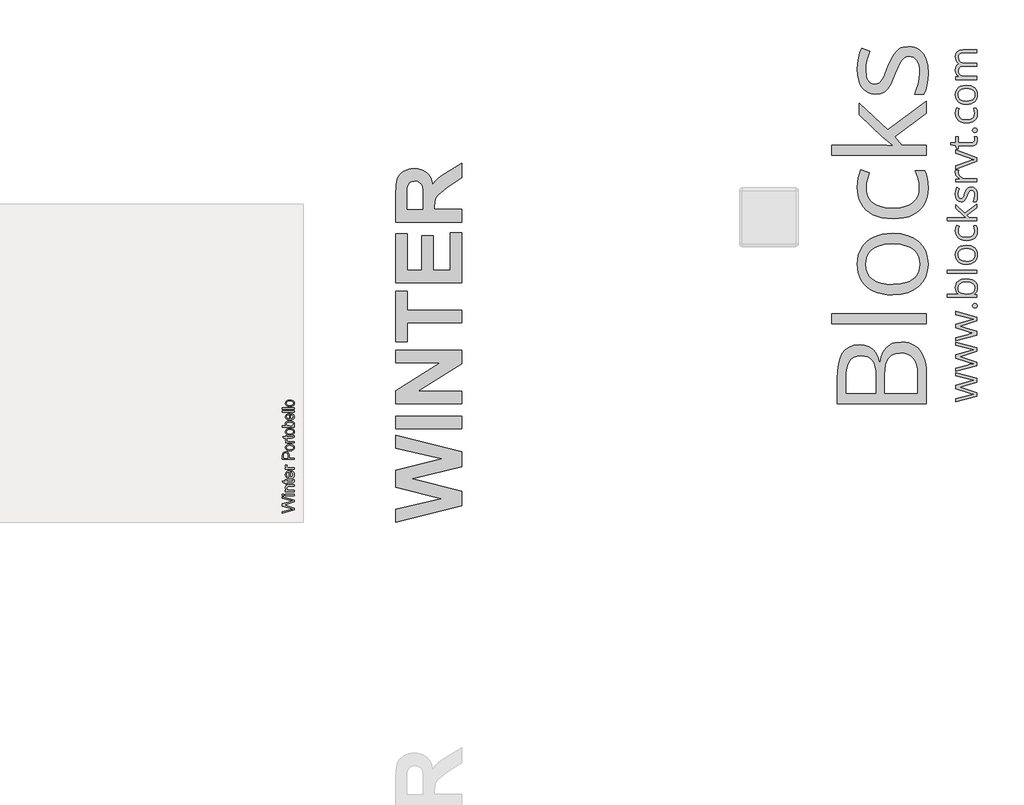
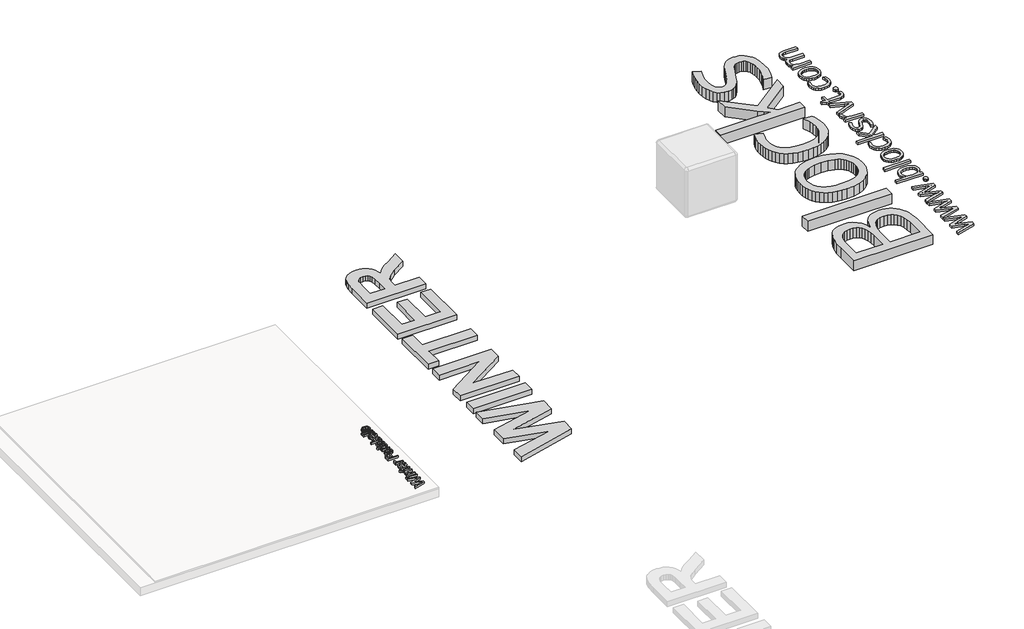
# One storey, part 7 of 7: 5 proxies.
"""IFC4 building model written with IfcOpenShell, lengths in millimetres."""

from ifc_helpers import new_model, si_unit, frame, origin, origin_with_axes, place, context, project, spatial, polyline, outline, extrude, element, save

model = new_model("IFC4")

# Units and contexts
model_context = context("Model", 3, world=origin())
ifc_project = project(units=[si_unit("LENGTHUNIT", "METRE", prefix="MILLI")], contexts=[model_context])

# Site, building, storey
site = spatial("IfcSite", under=ifc_project)
building = spatial("IfcBuilding", under=site)
storey = spatial("IfcBuildingStorey", under=building, Name="PORTOBELLO - SHOWROOM", Elevation=0.0)

# Proxies
placement = place(None, origin())
element("IfcBuildingElementProxy", 1, Name="10mm Arial", ObjectType="10mm Arial", at=placement, inside=storey, context=model_context, shape_type="SweptSolid", body=[
    extrude(outline(polyline([(-19183.5351931, 12292.86546), (-19283.9915032, 12265.4705141), (-19283.9915032, 12278.4199603), (-19217.9689478, 12294.3124625), (-19197.5882853, 12299.2175558), (-19215.6145031, 12304.4660056), (-19283.9915032, 12324.3806842), (-19283.9915032, 12343.0445641), (-19234.4255358, 12357.5145893), (-19197.5882853, 12368.281269), (-19217.3803366, 12373.0392095), (-19283.9915032, 12389.0788645), (-19283.9915032, 12402.0283107), (-19183.5351931, 12374.6088393), (-19183.5351931, 12361.1934092), (-19261.0356667, 12337.1094013), (-19271.8513974, 12333.7494124), (-19258.8283748, 12329.9724906), (-19183.5351931, 12308.0221982), (-19183.5351931, 12292.86546)])), frame((0.0, 0.0, 15.0), z_axis=(0.0, 0.0, 1.0), x_axis=(1.0, 0.0, 0.0)), (0.0, 0.0, 1.0), 20.0),
    extrude(outline(polyline([(-19183.5351931, 12413.0157196), (-19257.3077959, 12413.0157196), (-19257.3077959, 12425.5727584), (-19183.5351931, 12425.5727584), (-19183.5351931, 12413.0157196)])), frame((0.0, 0.0, 15.0), z_axis=(0.0, 0.0, 1.0), x_axis=(1.0, 0.0, 0.0)), (0.0, 0.0, 1.0), 20.0),
    extrude(outline(polyline([(-19271.4344645, 12413.0157196), (-19283.9915032, 12413.0157196), (-19283.9915032, 12425.5727584), (-19271.4344645, 12425.5727584), (-19271.4344645, 12413.0157196)])), frame((0.0, 0.0, 15.0), z_axis=(0.0, 0.0, 1.0), x_axis=(1.0, 0.0, 0.0)), (0.0, 0.0, 1.0), 20.0),
    extrude(outline(polyline([(-19183.5351931, 12444.4083165), (-19257.3077959, 12444.4083165), (-19257.3077959, 12456.9653553), (-19247.0071, 12456.9653553), (-19255.9098443, 12466.5670754), (-19258.8774257, 12479.6759371), (-19256.4861927, 12491.5340001), (-19250.2076733, 12499.627404), (-19240.9738353, 12503.3920631), (-19228.8337294, 12504.0542507), (-19183.5351931, 12504.0542507), (-19183.5351931, 12491.4972119), (-19227.1414722, 12491.4972119), (-19238.2515085, 12490.0502094), (-19244.1253577, 12484.9366497), (-19246.3203869, 12476.3159482), (-19241.3907682, 12462.6920517), (-19234.2477261, 12458.3970294), (-19222.6778374, 12456.9653553), (-19183.5351931, 12456.9653553), (-19183.5351931, 12444.4083165)])), frame((0.0, 0.0, 15.0), z_axis=(0.0, 0.0, 1.0), x_axis=(1.0, 0.0, 0.0)), (0.0, 0.0, 1.0), 20.0),
    extrude(outline(polyline([(-19194.0075672, 12548.0038864), (-19183.1673111, 12549.5735162), (-19181.9655632, 12540.1802626), (-19184.0502279, 12529.6588375), (-19189.5194069, 12524.4103877), (-19203.7687028, 12522.8898088), (-19244.7507571, 12522.8898088), (-19244.7507571, 12513.4720298), (-19257.3077959, 12513.4720298), (-19257.3077959, 12522.8898088), (-19275.2359118, 12522.8898088), (-19282.6180771, 12535.4468476), (-19257.3077959, 12535.4468476), (-19257.3077959, 12548.0038864), (-19244.7507571, 12548.0038864), (-19244.7507571, 12535.4468476), (-19204.1365848, 12535.4468476), (-19197.6618617, 12536.1090352), (-19195.3687306, 12538.2550135), (-19194.522602, 12542.5347074), (-19194.0075672, 12548.0038864)])), frame((0.0, 0.0, 15.0), z_axis=(0.0, 0.0, 1.0), x_axis=(1.0, 0.0, 0.0)), (0.0, 0.0, 1.0), 20.0),
    extrude(outline(polyline([(-19205.5100109, 12612.2115573), (-19203.9403811, 12624.5233414), (-19194.6636234, 12620.0872976), (-19187.7290478, 12613.0086349), (-19183.4064344, 12603.4467687), (-19181.9655632, 12591.5611146), (-19184.4518324, 12576.8274407), (-19191.9106398, 12565.4905439), (-19203.8576076, 12558.2616627), (-19219.8083578, 12555.8520356), (-19236.2956026, 12558.2861881), (-19248.6257808, 12565.5886457), (-19256.3145145, 12576.7722584), (-19258.8774257, 12590.8498761), (-19256.3206458, 12604.489101), (-19248.6503062, 12615.3876052), (-19236.3446535, 12622.5337129), (-19219.8819342, 12624.9157488), (-19216.4974199, 12624.8421724), (-19216.4974199, 12568.4090744), (-19207.0980349, 12570.5826438), (-19200.1879847, 12575.6318242), (-19195.9389477, 12582.9189534), (-19194.522602, 12591.8063693), (-19197.1468269, 12604.1181534), (-19205.5100109, 12612.2115573)]), holes=[polyline([(-19229.0544586, 12568.4090744), (-19229.0544586, 12612.3587101), (-19240.434275, 12607.3309895), (-19244.848859, 12600.0101378), (-19246.3203869, 12590.8008251), (-19241.6237601, 12575.3375186), (-19236.1331213, 12570.4722792), (-19229.0544586, 12568.4090744)])]), frame((0.0, 0.0, 15.0), z_axis=(0.0, 0.0, 1.0), x_axis=(1.0, 0.0, 0.0)), (0.0, 0.0, 1.0), 20.0),
    extrude(outline(polyline([(-19183.5351931, 12637.4727876), (-19257.3077959, 12637.4727876), (-19257.3077959, 12648.4601965), (-19246.3939633, 12648.4601965), (-19256.4494045, 12656.2592948), (-19258.8774257, 12664.107444), (-19255.002402, 12676.7135337), (-19243.745213, 12672.519679), (-19246.3203869, 12663.6905111), (-19243.8433148, 12656.5903886), (-19236.9761843, 12652.0654401), (-19222.3099554, 12650.0298264), (-19183.5351931, 12650.0298264), (-19183.5351931, 12637.4727876)])), frame((0.0, 0.0, 15.0), z_axis=(0.0, 0.0, 1.0), x_axis=(1.0, 0.0, 0.0)), (0.0, 0.0, 1.0), 20.0),
])
element("IfcBuildingElementProxy", 2, Name="10mm Arial Narrow", ObjectType="10mm Arial Narrow", at=placement, inside=storey, context=model_context, shape_type="SweptSolid", body=[
    extrude(outline(polyline([(-19183.5351931, 12722.2021928), (-19284.2537968, 12722.2021928), (-19284.2537968, 12753.4990775), (-19282.3754761, 12769.794779), (-19272.8950329, 12781.2677651), (-19255.8759241, 12785.5574435), (-19243.8000986, 12783.7711351), (-19234.1737048, 12778.4122099), (-19227.8724464, 12768.6684211), (-19225.7720269, 12753.7275219), (-19225.7720269, 12731.9491544), (-19183.5351931, 12731.9491544), (-19183.5351931, 12722.2021928)]), holes=[polyline([(-19237.1434822, 12731.9491544), (-19237.1434822, 12754.9205094), (-19241.6742964, 12770.7847048), (-19255.3428871, 12775.8104819), (-19265.5086636, 12773.3356674), (-19271.3086134, 12767.3580386), (-19272.8823416, 12754.692065), (-19272.8823416, 12731.9491544), (-19237.1434822, 12731.9491544)])]), frame((0.0, 0.0, 15.0), z_axis=(0.0, 0.0, 1.0), x_axis=(1.0, 0.0, 0.0)), (0.0, 0.0, 1.0), 20.0),
    extrude(outline(polyline([(-19220.0862993, 12793.6799116), (-19236.6770748, 12795.6343804), (-19248.6291597, 12801.4977871), (-19255.8537142, 12810.3563538), (-19258.2618991, 12821.2963029), (-19255.8537142, 12832.1093385), (-19248.6291597, 12840.9932879), (-19236.8674452, 12846.9328427), (-19220.8477807, 12848.9126943), (-19203.6858941, 12846.9677439), (-19191.5434389, 12841.1328929), (-19184.3188843, 12832.2838447), (-19181.9106995, 12821.2963029), (-19184.32523, 12810.4356748), (-19191.5688216, 12801.5612438), (-19203.5272521, 12795.6502446), (-19220.0862993, 12793.6799116)]), holes=[polyline([(-19220.111682, 12803.4268732), (-19207.5599306, 12804.7309101), (-19198.6886725, 12808.6430207), (-19193.415414, 12814.4842174), (-19191.6576611, 12821.5755128), (-19193.4312782, 12828.2955859), (-19198.7521293, 12833.9876592), (-19207.6392516, 12837.8712143), (-19220.111682, 12839.1657326), (-19232.6253593, 12837.8616958), (-19241.483926, 12833.9495852), (-19246.7571846, 12828.1083884), (-19248.5149374, 12821.0170931), (-19246.7476661, 12814.2494273), (-19241.445852, 12808.5668725), (-19232.5777667, 12804.7118731), (-19220.111682, 12803.4268732)])]), frame((0.0, 0.0, 15.0), z_axis=(0.0, 0.0, 1.0), x_axis=(1.0, 0.0, 0.0)), (0.0, 0.0, 1.0), 20.0),
    extrude(outline(polyline([(-19191.6576611, 12920.3904131), (-19181.9106995, 12922.0149067), (-19181.9106995, 12914.65392), (-19184.030156, 12906.3791557), (-19189.8301058, 12902.0640945), (-19204.475931, 12900.8964898), (-19246.8904438, 12900.8964898), (-19246.8904438, 12892.7740217), (-19250.1394311, 12892.7740217), (-19245.2659502, 12891.1495281), (-19246.8904438, 12883.5854797), (-19244.5679256, 12877.5063201), (-19238.0826425, 12873.6354564), (-19222.675336, 12871.6556048), (-19183.5351931, 12871.6556048), (-19183.5351931, 12861.9086431), (-19256.6374055, 12861.9086431), (-19256.6374055, 12871.6556048), (-19246.9412093, 12871.6556048), (-19256.0282204, 12877.8997521), (-19258.2618991, 12884.2961957), (-19256.6374055, 12892.7740217), (-19256.6374055, 12900.8964898), (-19272.8823416, 12900.8964898), (-19281.0048096, 12910.6434514), (-19256.6374055, 12910.6434514), (-19256.6374055, 12920.3904131), (-19246.8904438, 12920.3904131), (-19246.8904438, 12910.6434514), (-19202.2422523, 12910.6434514), (-19194.2466978, 12911.5064636), (-19191.6576611, 12916.1261173), (-19191.6576611, 12920.3904131)])), frame((0.0, 0.0, 15.0), z_axis=(0.0, 0.0, 1.0), x_axis=(1.0, 0.0, 0.0)), (0.0, 0.0, 1.0), 20.0),
    extrude(outline(polyline([(-19220.0862993, 12926.8883875), (-19236.6770748, 12928.8428564), (-19248.6291597, 12934.706263), (-19255.8537142, 12943.5648297), (-19258.2618991, 12954.5047789), (-19255.8537142, 12965.3178144), (-19248.6291597, 12974.2017639), (-19236.8674452, 12980.1413186), (-19220.8477807, 12982.1211702), (-19203.6858941, 12980.1762198), (-19191.5434389, 12974.3413688), (-19184.3188843, 12965.4923206), (-19181.9106995, 12954.5047789), (-19184.32523, 12943.6441507), (-19191.5688216, 12934.7697198), (-19203.5272521, 12928.8587206), (-19220.0862993, 12926.8883875)]), holes=[polyline([(-19220.111682, 12936.6353492), (-19207.5599306, 12937.939386), (-19198.6886725, 12941.8514966), (-19193.415414, 12947.6926933), (-19191.6576611, 12954.7839887), (-19193.4312782, 12961.5040619), (-19198.7521293, 12967.1961352), (-19207.6392516, 12971.0796902), (-19220.111682, 12972.3742086), (-19232.6253593, 12971.0701717), (-19241.483926, 12967.1580611), (-19246.7571846, 12961.3168644), (-19248.5149374, 12954.225569), (-19246.7476661, 12947.4579033), (-19241.445852, 12941.7753485), (-19232.5777667, 12937.920349), (-19220.111682, 12936.6353492)])]), frame((0.0, 0.0, 15.0), z_axis=(0.0, 0.0, 1.0), x_axis=(1.0, 0.0, 0.0)), (0.0, 0.0, 1.0), 20.0),
    extrude(outline(polyline([(-19183.5351931, 13004.8640807), (-19183.5351931, 12995.1171191), (-19284.2537968, 12995.1171191), (-19284.2537968, 13004.8640807), (-19248.8449127, 13004.8640807), (-19255.9266895, 13012.2631415), (-19258.2618991, 13021.4643748), (-19254.0610602, 13034.3461015), (-19241.3316298, 13043.6234829), (-19220.644719, 13047.1009146), (-19204.1903755, 13045.1686556), (-19191.9876364, 13039.3718786), (-19184.4299337, 13030.9987562), (-19181.9106995, 13021.3374612), (-19184.5251189, 13011.996623), (-19192.2922289, 13004.8640807), (-19183.5351931, 13004.8640807)]), holes=[polyline([(-19220.644719, 13004.8640807), (-19203.3971657, 13006.9454632), (-19194.6655126, 13012.8342525), (-19191.6576611, 13021.2866958), (-19193.4471424, 13027.2294234), (-19198.8155861, 13032.4677807), (-19220.2385956, 13037.3539529), (-19241.6742964, 13032.6454597), (-19246.8047772, 13027.4007567), (-19248.5149374, 13021.0836341), (-19246.7254562, 13015.1060053), (-19241.3570125, 13009.8137097), (-19220.644719, 13004.8640807)])]), frame((0.0, 0.0, 15.0), z_axis=(0.0, 0.0, 1.0), x_axis=(1.0, 0.0, 0.0)), (0.0, 0.0, 1.0), 20.0),
    extrude(outline(polyline([(-19206.2781036, 13099.08471), (-19204.65361, 13108.8316717), (-19194.7670434, 13105.1321413), (-19187.6471925, 13099.3131545), (-19183.3448227, 13091.6095012), (-19181.9106995, 13082.2559716), (-19184.32523, 13070.6624176), (-19191.5688216, 13061.5182953), (-19203.3749559, 13055.5787406), (-19219.4771142, 13053.598889), (-19236.1440379, 13055.5882591), (-19248.3245671, 13061.5563694), (-19255.7775661, 13070.5704052), (-19258.2618991, 13081.6975519), (-19255.8632328, 13092.3805011), (-19248.6672337, 13101.1280184), (-19236.9277291, 13106.9628695), (-19220.8985461, 13108.9078198), (-19217.6495589, 13108.8316717), (-19217.6495589, 13063.3458507), (-19198.206401, 13069.3488622), (-19193.2948461, 13075.2788984), (-19191.6576611, 13082.3828851), (-19195.3127718, 13092.5613529), (-19206.2781036, 13099.08471)]), holes=[polyline([(-19227.3965205, 13064.0058012), (-19227.3965205, 13099.08471), (-19241.661605, 13094.8204143), (-19246.8016043, 13088.9950818), (-19248.5149374, 13081.7737), (-19242.8038271, 13069.5646152), (-19227.3965205, 13064.0058012)])]), frame((0.0, 0.0, 15.0), z_axis=(0.0, 0.0, 1.0), x_axis=(1.0, 0.0, 0.0)), (0.0, 0.0, 1.0), 20.0),
    extrude(outline(polyline([(-19183.5351931, 13121.8276206), (-19284.2537968, 13121.8276206), (-19284.2537968, 13131.5745822), (-19183.5351931, 13131.5745822), (-19183.5351931, 13121.8276206)])), frame((0.0, 0.0, 15.0), z_axis=(0.0, 0.0, 1.0), x_axis=(1.0, 0.0, 0.0)), (0.0, 0.0, 1.0), 20.0),
    extrude(outline(polyline([(-19183.5351931, 13147.8195183), (-19284.2537968, 13147.8195183), (-19284.2537968, 13157.56648), (-19183.5351931, 13157.56648), (-19183.5351931, 13147.8195183)])), frame((0.0, 0.0, 15.0), z_axis=(0.0, 0.0, 1.0), x_axis=(1.0, 0.0, 0.0)), (0.0, 0.0, 1.0), 20.0),
    extrude(outline(polyline([(-19220.0862993, 13168.9379352), (-19236.6770748, 13170.8924041), (-19248.6291597, 13176.7558107), (-19255.8537142, 13185.6143774), (-19258.2618991, 13196.5543266), (-19255.8537142, 13207.3673622), (-19248.6291597, 13216.2513116), (-19236.8674452, 13222.1908663), (-19220.8477807, 13224.1707179), (-19203.6858941, 13222.2257676), (-19191.5434389, 13216.3909165), (-19184.3188843, 13207.5418683), (-19181.9106995, 13196.5543266), (-19184.32523, 13185.6936984), (-19191.5688216, 13176.8192675), (-19203.5272521, 13170.9082683), (-19220.0862993, 13168.9379352)]), holes=[polyline([(-19220.111682, 13178.6848969), (-19207.5599306, 13179.9889337), (-19198.6886725, 13183.9010443), (-19193.415414, 13189.7422411), (-19191.6576611, 13196.8335364), (-19193.4312782, 13203.5536096), (-19198.7521293, 13209.2456829), (-19207.6392516, 13213.1292379), (-19220.111682, 13214.4237563), (-19232.6253593, 13213.1197194), (-19241.483926, 13209.2076088), (-19246.7571846, 13203.3664121), (-19248.5149374, 13196.2751167), (-19246.7476661, 13189.507451), (-19241.445852, 13183.8248962), (-19232.5777667, 13179.9698967), (-19220.111682, 13178.6848969)])]), frame((0.0, 0.0, 15.0), z_axis=(0.0, 0.0, 1.0), x_axis=(1.0, 0.0, 0.0)), (0.0, 0.0, 1.0), 20.0),
])
element("IfcBuildingElementProxy", 3, Name="25mm OpenSans", ObjectType="25mm OpenSans", at=placement, inside=storey, context=model_context, shape_type="SweptSolid", body=[
    extrude(outline(polyline([(-13391.9371109, 13376.9769538), (-13495.2275167, 13345.4201607), (-13508.3074701, 13341.4849311), (-13520.6003776, 13338.1118773), (-13531.5815419, 13335.3384774), (-13540.4264388, 13333.3521234), (-13531.5815419, 13330.4288101), (-13520.4879425, 13327.7678453), (-13507.9326863, 13324.4322698), (-13494.7777762, 13320.3846051), (-13391.9371109, 13287.4036338), (-13391.9371109, 13257.1960622), (-13569.4347023, 13208.399216), (-13569.4347023, 13236.2081714), (-13471.4662259, 13261.6934674), (-13452.2772971, 13266.6406131), (-13434.4750683, 13270.6882778), (-13419.9709365, 13273.1618507), (-13429.6778361, 13276.6848181), (-13441.7458733, 13279.4207396), (-13454.5634781, 13282.7188367), (-13466.594037, 13286.2792825), (-13569.4347023, 13318.9604268), (-13569.4347023, 13347.8937335), (-13466.7439505, 13379.3755699), (-13450.5532918, 13384.1353237), (-13434.2876764, 13388.445337), (-13420.2707635, 13391.1437801), (-13433.8754142, 13394.8916178), (-13451.7151215, 13399.0142392), (-13471.4662259, 13403.9613849), (-13569.4347023, 13429.8214647), (-13569.4347023, 13457.1057229), (-13391.9371109, 13408.1589631), (-13391.9371109, 13376.9769538)])), origin_with_axes(), (0.0, 0.0, 1.0), 20.0),
    extrude(outline(polyline([(-13391.9371109, 13636.0274926), (-13495.2275167, 13604.4706995), (-13508.3074701, 13600.53547), (-13520.6003776, 13597.1624161), (-13531.5815419, 13594.3890162), (-13540.4264388, 13592.4026623), (-13531.5815419, 13589.4793489), (-13520.4879425, 13586.8183841), (-13507.9326863, 13583.4828086), (-13494.7777762, 13579.435144), (-13391.9371109, 13546.4541726), (-13391.9371109, 13516.2466011), (-13569.4347023, 13467.4497548), (-13569.4347023, 13495.2587102), (-13471.4662259, 13520.7440063), (-13452.2772971, 13525.691152), (-13434.4750683, 13529.7388166), (-13419.9709365, 13532.2123895), (-13429.6778361, 13535.7353569), (-13441.7458733, 13538.4712784), (-13454.5634781, 13541.7693755), (-13466.594037, 13545.3298213), (-13569.4347023, 13578.0109657), (-13569.4347023, 13606.9442724), (-13466.7439505, 13638.4261087), (-13450.5532918, 13643.1858625), (-13434.2876764, 13647.4958758), (-13420.2707635, 13650.1943189), (-13433.8754142, 13653.9421566), (-13451.7151215, 13658.064778), (-13471.4662259, 13663.0119237), (-13569.4347023, 13688.8720035), (-13569.4347023, 13716.1562617), (-13391.9371109, 13667.2095019), (-13391.9371109, 13636.0274926)])), origin_with_axes(), (0.0, 0.0, 1.0), 20.0),
    extrude(outline(polyline([(-13391.9371109, 13895.0780314), (-13495.2275167, 13863.5212383), (-13508.3074701, 13859.5860088), (-13520.6003776, 13856.2129549), (-13531.5815419, 13853.439555), (-13540.4264388, 13851.4532011), (-13531.5815419, 13848.5298877), (-13520.4879425, 13845.868923), (-13507.9326863, 13842.5333475), (-13494.7777762, 13838.4856828), (-13391.9371109, 13805.5047114), (-13391.9371109, 13775.2971399), (-13569.4347023, 13726.5002936), (-13569.4347023, 13754.309249), (-13471.4662259, 13779.7945451), (-13452.2772971, 13784.7416908), (-13434.4750683, 13788.7893555), (-13419.9709365, 13791.2629283), (-13429.6778361, 13794.7858957), (-13441.7458733, 13797.5218172), (-13454.5634781, 13800.8199143), (-13466.594037, 13804.3803601), (-13569.4347023, 13837.0615045), (-13569.4347023, 13865.9948112), (-13466.7439505, 13897.4766475), (-13450.5532918, 13902.2364013), (-13434.2876764, 13906.5464146), (-13420.2707635, 13909.2448577), (-13433.8754142, 13912.9926954), (-13451.7151215, 13917.1153168), (-13471.4662259, 13922.0624625), (-13569.4347023, 13947.9225424), (-13569.4347023, 13975.2068005), (-13391.9371109, 13926.2600407), (-13391.9371109, 13895.0780314)])), origin_with_axes(), (0.0, 0.0, 1.0), 20.0),
    extrude(outline(polyline([(-13408.4275965, 14005.8641125), (-13418.1063873, 14007.2414429), (-13424.5058201, 14011.3734339), (-13429.2655739, 14024.8281711), (-13424.5058201, 14038.7326488), (-13418.1063873, 14042.9770749), (-13408.4275965, 14044.3918836), (-13398.8331321, 14042.9770749), (-13392.2369379, 14038.7326488), (-13387.1398787, 14024.8281711), (-13392.2369379, 14011.3734339), (-13398.8331321, 14007.2414429), (-13408.4275965, 14005.8641125)])), origin_with_axes(), (0.0, 0.0, 1.0), 20.0),
    extrude(outline(polyline([(-13641.3931853, 14123.0964744), (-13581.1279558, 14123.0964744), (-13561.0020675, 14122.5342988), (-13545.823325, 14121.6722961), (-13556.8232286, 14131.9882193), (-13565.9866916, 14144.1218437), (-13572.1706238, 14159.7784355), (-13574.2319345, 14179.2390825), (-13572.7632506, 14195.0362182), (-13568.3571989, 14209.146827), (-13561.0137795, 14221.5709088), (-13550.7329924, 14232.3084637), (-13537.5570006, 14240.9659687), (-13521.5279674, 14247.1499009), (-13480.9107768, 14252.0970466), (-13452.8019944, 14249.8296048), (-13429.4904442, 14243.0272794), (-13411.1260397, 14232.1117023), (-13397.8586944, 14217.504505), (-13389.8195826, 14199.542993), (-13387.1398787, 14178.5644717), (-13389.0981238, 14159.4411301), (-13394.9728594, 14144.0468869), (-13403.6772123, 14132.0819152), (-13414.1243098, 14123.2463879), (-13414.1243098, 14121.1475988), (-13391.9371109, 14115.6757559), (-13391.9371109, 14096.2619568), (-13641.3931853, 14096.2619568), (-13641.3931853, 14123.0964744)]), holes=[polyline([(-13551.8198653, 14174.8166341), (-13549.8897289, 14157.59532), (-13544.0993197, 14144.3092356), (-13534.4298986, 14134.5835968), (-13520.8627262, 14128.0436201), (-13481.5853876, 14123.0964744), (-13449.7943547, 14125.8886135), (-13427.579047, 14134.2650306), (-13419.6266039, 14140.9877144), (-13413.9462875, 14149.9872096), (-13409.4020343, 14174.8166341), (-13414.049353, 14196.4603965), (-13427.9913091, 14211.9202269), (-13450.572031, 14221.1961251), (-13481.1356471, 14224.2880911), (-13511.9428726, 14221.2429731), (-13534.0551148, 14212.1076188), (-13547.3786777, 14196.6946364), (-13551.8198653, 14174.8166341)])]), origin_with_axes(), (0.0, 0.0, 1.0), 20.0),
    extrude(outline(polyline([(-13391.9371109, 14324.7301403), (-13391.9371109, 14297.7457092), (-13641.3931853, 14297.7457092), (-13641.3931853, 14324.7301403), (-13391.9371109, 14324.7301403)])), origin_with_axes(), (0.0, 0.0, 1.0), 20.0),
    extrude(outline(polyline([(-13480.9857336, 14536.8577517), (-13441.3336112, 14531.1985168), (-13425.2272788, 14524.2837564), (-13411.8381288, 14514.8579447), (-13401.2317482, 14503.0709952), (-13393.4737243, 14489.0728216), (-13388.7233401, 14472.9852284), (-13387.1398787, 14454.9300205), (-13388.7233401, 14437.905468), (-13393.4737243, 14422.3613113), (-13401.2317482, 14408.5692687), (-13411.8381288, 14396.8010585), (-13425.2272788, 14387.2628116), (-13441.3336112, 14380.1606593), (-13459.9791035, 14375.7475804), (-13480.9857336, 14374.2765542), (-13508.4573836, 14376.7407574), (-13531.5065852, 14384.1333672), (-13549.8709897, 14396.1077085), (-13563.2882485, 14412.3171064), (-13571.496013, 14432.4148858), (-13574.2319345, 14456.0543718), (-13571.4772738, 14478.7568984), (-13563.2132918, 14498.4424157), (-13549.7398154, 14514.6049656), (-13531.3566717, 14526.73859), (-13508.3449485, 14534.3279613), (-13480.9857336, 14536.8577517)]), holes=[polyline([(-13481.0606903, 14402.0855096), (-13460.6162359, 14403.5003183), (-13443.0576165, 14407.7447444), (-13428.778355, 14414.9312231), (-13418.1719745, 14425.1721895), (-13411.5945194, 14438.6456659), (-13409.4020343, 14455.5296746), (-13411.5945194, 14472.3293569), (-13418.1719745, 14485.8496812), (-13428.778355, 14496.1749739), (-13443.0576165, 14503.3895614), (-13460.6162359, 14507.6339876), (-13481.0606903, 14509.0487963), (-13501.2709049, 14507.6339876), (-13518.5765453, 14503.3895614), (-13532.6215669, 14496.1937131), (-13543.0499252, 14485.924638), (-13549.5149451, 14472.3855744), (-13551.6699518, 14455.3797611), (-13546.9851547, 14431.4779264), (-13532.9307635, 14414.9405927), (-13510.5936511, 14405.2992804), (-13481.0606903, 14402.0855096)])]), origin_with_axes(), (0.0, 0.0, 1.0), 20.0),
    extrude(outline(polyline([(-13387.1398787, 14656.5636865), (-13389.6509299, 14634.0672909), (-13397.1840836, 14614.4005128), (-13409.8611444, 14598.1630062), (-13427.8039172, 14585.954425), (-13451.0686195, 14578.3088362), (-13479.7114688, 14575.7603066), (-13509.488039, 14578.4493801), (-13533.3055473, 14586.5166007), (-13551.4450815, 14599.3060967), (-13564.1877295, 14616.1619965), (-13571.7208832, 14636.3441023), (-13574.2319345, 14659.1122161), (-13571.5709697, 14684.7474256), (-13564.8623403, 14705.0607057), (-13542.4502711, 14696.9653764), (-13548.2594195, 14678.3011449), (-13550.8454275, 14658.512562), (-13548.8122256, 14641.6285534), (-13542.7126198, 14627.85525), (-13532.6777845, 14617.1832823), (-13518.8388939, 14609.6032806), (-13501.2615353, 14605.0777666), (-13480.0112958, 14603.569262), (-13459.5855806, 14605.0402883), (-13442.3830057, 14609.4533671), (-13428.6378111, 14616.7991289), (-13418.5842366, 14627.0682041), (-13412.4284132, 14640.2699622), (-13410.3764721, 14656.4137729), (-13413.3747422, 14681.7491555), (-13420.420677, 14702.2873059), (-13396.5094728, 14702.2873059), (-13389.5759731, 14682.498723), (-13387.1398787, 14656.5636865)])), origin_with_axes(), (0.0, 0.0, 1.0), 20.0),
    extrude(outline(polyline([(-13641.3931853, 14770.572908), (-13512.5425266, 14770.572908), (-13497.0264787, 14770.0856891), (-13480.8358201, 14769.2986432), (-13493.3161195, 14780.3547643), (-13506.6209431, 14791.4108853), (-13569.4347023, 14850.2519365), (-13569.4347023, 14881.8087296), (-13493.6534249, 14810.5248574), (-13391.9371109, 14886.9807456), (-13391.9371109, 14854.5994282), (-13475.9636311, 14792.0854961), (-13456.250005, 14770.572908), (-13391.9371109, 14770.572908), (-13391.9371109, 14743.8883039), (-13641.3931853, 14743.8883039), (-13641.3931853, 14770.572908)])), origin_with_axes(), (0.0, 0.0, 1.0), 20.0),
    extrude(outline(polyline([(-13439.8344761, 15031.1975386), (-13423.9061661, 15029.0800103), (-13410.7512559, 15022.7274255), (-13400.4447023, 15012.4302415), (-13393.0614622, 14998.4789159), (-13388.6202745, 14981.1920147), (-13387.1398787, 14960.8881042), (-13390.063192, 14928.7316571), (-13398.3084349, 14904.9703663), (-13423.0441634, 14904.9703663), (-13413.2997855, 14930.8679245), (-13408.9522938, 14961.5627149), (-13410.8730606, 14981.3512978), (-13416.635361, 14994.8435133), (-13425.6957585, 15002.6015373), (-13437.5108168, 15005.1875453), (-13450.5907702, 15001.0649238), (-13461.6094129, 14987.2354029), (-13473.4151015, 14960.4383636), (-13486.5325333, 14931.0553164), (-13502.423365, 14911.9788227), (-13513.1983982, 14906.9473507), (-13526.7843097, 14905.2701933), (-13547.0507419, 14909.8238161), (-13561.9765053, 14923.4846844), (-13571.1680772, 14944.5287928), (-13574.2319345, 14971.2321361), (-13571.0837508, 15001.2523157), (-13562.6136377, 15027.2997874), (-13541.1010496, 15018.3049771), (-13549.0464654, 14994.8435133), (-13552.2696058, 14969.433174), (-13550.695514, 14953.0082755), (-13545.9732385, 14940.9121295), (-13538.5150416, 14933.4633021), (-13528.7331853, 14930.9803597), (-13514.7912292, 14935.5902), (-13504.4846757, 14950.3941587), (-13493.2036843, 14977.2286764), (-13480.3111228, 15005.9745912), (-13464.1579425, 15024.6388227), (-13453.3360613, 15029.5578596), (-13439.8344761, 15031.1975386)])), origin_with_axes(), (0.0, 0.0, 1.0), 20.0),
    extrude(outline(polyline([(-13574.2319345, 15155.4008785), (-13573.6697588, 15166.5694348), (-13572.1331454, 15176.9134667), (-13547.2475033, 15173.5404128), (-13549.0464654, 15163.7960349), (-13549.7210762, 15153.8267867), (-13545.3735845, 15133.6634201), (-13532.9307635, 15117.0979777), (-13513.4794861, 15105.9294215), (-13488.1815819, 15101.8817568), (-13391.9371109, 15101.8817568), (-13391.9371109, 15074.8973257), (-13569.4347023, 15074.8973257), (-13569.4347023, 15097.2344381), (-13538.4026065, 15100.1577515), (-13556.3922272, 15114.5119697), (-13569.3972239, 15132.5390688), (-13574.2319345, 15155.4008785)])), origin_with_axes(), (0.0, 0.0, 1.0), 20.0),
    extrude(outline(polyline([(-13391.9371109, 15248.1973389), (-13569.4347023, 15180.9611314), (-13569.4347023, 15209.7445246), (-13462.021675, 15248.6470794), (-13437.735687, 15256.9298007), (-13416.3730124, 15262.738949), (-13437.8481221, 15270.3470595), (-13462.021675, 15278.5548239), (-13569.4347023, 15317.5323356), (-13569.4347023, 15346.3157288), (-13391.9371109, 15278.9296077), (-13391.9371109, 15248.1973389)])), origin_with_axes(), (0.0, 0.0, 1.0), 20.0),
    extrude(outline(polyline([(-13409.1022073, 15434.3899137), (-13410.2265586, 15447.957086), (-13412.9999585, 15459.2755557), (-13392.1619811, 15459.2755557), (-13388.6015353, 15446.2330807), (-13387.1398787, 15429.9674653), (-13392.1245027, 15404.4821692), (-13398.8518713, 15394.1568765), (-13409.0647289, 15386.1177647), (-13423.2971424, 15380.9457487), (-13442.0831787, 15379.2217434), (-13548.4468114, 15379.2217434), (-13548.4468114, 15354.0362743), (-13561.4892864, 15354.0362743), (-13572.0581886, 15379.4466137), (-13612.6097921, 15390.0904726), (-13612.6097921, 15406.2061745), (-13569.4347023, 15406.2061745), (-13569.4347023, 15458.1512044), (-13548.4468114, 15458.1512044), (-13548.4468114, 15406.2061745), (-13442.6828327, 15406.2061745), (-13427.9444611, 15408.1269413), (-13417.4598853, 15413.8892417), (-13411.1916268, 15422.8559433), (-13409.1022073, 15434.3899137)])), origin_with_axes(), (0.0, 0.0, 1.0), 20.0),
    extrude(outline(polyline([(-13408.4275965, 15493.0060946), (-13418.1063873, 15494.383425), (-13424.5058201, 15498.515416), (-13429.2655739, 15511.9701532), (-13424.5058201, 15525.8746309), (-13418.1063873, 15530.119057), (-13408.4275965, 15531.5338658), (-13398.8331321, 15530.119057), (-13392.2369379, 15525.8746309), (-13387.1398787, 15511.9701532), (-13392.2369379, 15498.515416), (-13398.8331321, 15494.383425), (-13408.4275965, 15493.0060946)])), origin_with_axes(), (0.0, 0.0, 1.0), 20.0),
    extrude(outline(polyline([(-13387.1398787, 15654.3879841), (-13389.6509299, 15631.8915886), (-13397.1840836, 15612.2248105), (-13409.8611444, 15595.9873039), (-13427.8039172, 15583.7787227), (-13451.0686195, 15576.1331339), (-13479.7114688, 15573.5846043), (-13509.488039, 15576.2736778), (-13533.3055473, 15584.3408983), (-13551.4450815, 15597.1303943), (-13564.1877295, 15613.9862942), (-13571.7208832, 15634.1684), (-13574.2319345, 15656.9365137), (-13571.5709697, 15682.5717233), (-13564.8623403, 15702.8850034), (-13542.4502711, 15694.7896741), (-13548.2594195, 15676.1254425), (-13550.8454275, 15656.3368597), (-13548.8122256, 15639.4528511), (-13542.7126198, 15625.6795477), (-13532.6777845, 15615.00758), (-13518.8388939, 15607.4275783), (-13501.2615353, 15602.9020643), (-13480.0112958, 15601.3935597), (-13459.5855806, 15602.864586), (-13442.3830057, 15607.2776648), (-13428.6378111, 15614.6234266), (-13418.5842366, 15624.8925018), (-13412.4284132, 15638.0942599), (-13410.3764721, 15654.2380706), (-13413.3747422, 15679.5734532), (-13420.420677, 15700.1116035), (-13396.5094728, 15700.1116035), (-13389.5759731, 15680.3230207), (-13387.1398787, 15654.3879841)])), origin_with_axes(), (0.0, 0.0, 1.0), 20.0),
    extrude(outline(polyline([(-13480.9857336, 15894.4744644), (-13441.3336112, 15888.8152296), (-13425.2272788, 15881.9004691), (-13411.8381288, 15872.4746574), (-13401.2317482, 15860.6877079), (-13393.4737243, 15846.6895343), (-13388.7233401, 15830.6019412), (-13387.1398787, 15812.5467332), (-13388.7233401, 15795.5221807), (-13393.4737243, 15779.978024), (-13401.2317482, 15766.1859814), (-13411.8381288, 15754.4177712), (-13425.2272788, 15744.8795244), (-13441.3336112, 15737.777372), (-13459.9791035, 15733.3642932), (-13480.9857336, 15731.8932669), (-13508.4573836, 15734.3574701), (-13531.5065852, 15741.7500799), (-13549.8709897, 15753.7244212), (-13563.2882485, 15769.9338191), (-13571.496013, 15790.0315985), (-13574.2319345, 15813.6710845), (-13571.4772738, 15836.3736111), (-13563.2132918, 15856.0591284), (-13549.7398154, 15872.2216783), (-13531.3566717, 15884.3553027), (-13508.3449485, 15891.944674), (-13480.9857336, 15894.4744644)]), holes=[polyline([(-13481.0606903, 15759.7022223), (-13460.6162359, 15761.117031), (-13443.0576165, 15765.3614571), (-13428.778355, 15772.5479359), (-13418.1719745, 15782.7889023), (-13411.5945194, 15796.2623786), (-13409.4020343, 15813.1463873), (-13411.5945194, 15829.9460696), (-13418.1719745, 15843.4663939), (-13428.778355, 15853.7916867), (-13443.0576165, 15861.0062741), (-13460.6162359, 15865.2507003), (-13481.0606903, 15866.665509), (-13501.2709049, 15865.2507003), (-13518.5765453, 15861.0062741), (-13532.6215669, 15853.8104258), (-13543.0499252, 15843.5413507), (-13549.5149451, 15830.0022871), (-13551.6699518, 15812.9964738), (-13546.9851547, 15789.0946391), (-13532.9307635, 15772.5573054), (-13510.5936511, 15762.9159931), (-13481.0606903, 15759.7022223)])]), origin_with_axes(), (0.0, 0.0, 1.0), 20.0),
    extrude(outline(polyline([(-13574.2319345, 16135.5353825), (-13570.3716617, 16161.2268096), (-13558.7908433, 16179.6849101), (-13538.6836943, 16190.8159879), (-13509.2444295, 16194.5263472), (-13391.9371109, 16194.5263472), (-13391.9371109, 16168.0666133), (-13508.1200782, 16168.0666133), (-13527.1965719, 16165.742954), (-13540.8012226, 16158.771976), (-13548.9527695, 16147.228636), (-13551.6699518, 16131.1878908), (-13547.9033749, 16109.0006919), (-13536.6036444, 16093.8594277), (-13517.9768912, 16085.1457052), (-13492.2292465, 16082.241131), (-13391.9371109, 16082.241131), (-13391.9371109, 16055.5565269), (-13508.1200782, 16055.5565269), (-13532.3685878, 16051.4339055), (-13546.8352412, 16039.140998), (-13551.6699518, 16018.5278908), (-13549.8241417, 16002.6557984), (-13544.2867116, 15990.2691949), (-13535.1326181, 15981.0869927), (-13522.4368181, 15974.8281038), (-13486.8323603, 15970.0308716), (-13391.9371109, 15970.0308716), (-13391.9371109, 15943.196354), (-13569.4347023, 15943.196354), (-13569.4347023, 15964.8588556), (-13545.9732385, 15968.9065203), (-13561.4892864, 15983.7854358), (-13571.0087941, 16001.8874917), (-13574.2319345, 16023.2501663), (-13572.3580156, 16041.7925931), (-13566.7362592, 16057.0931403), (-13557.2729691, 16068.8894594), (-13543.8744495, 16076.9192015), (-13557.2729691, 16088.6686726), (-13566.7362592, 16102.2545841), (-13572.3580156, 16118.1828941), (-13574.2319345, 16135.5353825)])), origin_with_axes(), (0.0, 0.0, 1.0), 20.0),
])
element("IfcBuildingElementProxy", 4, Name="600mm Arial", ObjectType="600mm Arial", at=placement, inside=storey, context=model_context, shape_type="SweptSolid", body=[
    extrude(outline(polyline([(-17762.2704876, 12327.6517121), (-18323.4131576, 12186.3918386), (-18323.4131576, 12296.0596024), (-17937.9059166, 12386.799935), (-18323.4131576, 12484.3597097), (-18323.4131576, 12628.1246844), (-17931.5039913, 12725.2669423), (-18323.4131576, 12816.0072748), (-18323.4131576, 12925.6750387), (-17762.2704876, 12786.5027495), (-17762.2704876, 12659.9951387), (-18181.7357672, 12556.0334386), (-17762.2704876, 12449.9841543), (-17762.2704876, 12327.6517121)])), origin_with_axes(), (0.0, 0.0, 1.0), 50.0),
    extrude(outline(polyline([(-17762.2704876, 12979.1171977), (-18323.4131576, 12979.1171977), (-18323.4131576, 13086.0015158), (-17762.2704876, 13086.0015158), (-17762.2704876, 12979.1171977)])), origin_with_axes(), (0.0, 0.0, 1.0), 50.0),
    extrude(outline(polyline([(-17762.2704876, 13192.8858339), (-18323.4131576, 13192.8858339), (-18323.4131576, 13304.9195267), (-17945.6995648, 13540.2598677), (-18323.4131576, 13540.2598677), (-18323.4131576, 13647.1441858), (-17762.2704876, 13647.1441858), (-17762.2704876, 13531.6311858), (-18134.4171889, 13299.770152), (-17762.2704876, 13299.770152), (-17762.2704876, 13192.8858339)])), origin_with_axes(), (0.0, 0.0, 1.0), 50.0),
    extrude(outline(polyline([(-17762.2704876, 13878.726875), (-18225.435866, 13878.726875), (-18225.435866, 13718.4003979), (-18323.4131576, 13718.4003979), (-18323.4131576, 14145.9376702), (-18225.435866, 14145.9376702), (-18225.435866, 13985.6111931), (-17762.2704876, 13985.6111931), (-17762.2704876, 13878.726875)])), origin_with_axes(), (0.0, 0.0, 1.0), 50.0),
    extrude(outline(polyline([(-17762.2704876, 14217.1938823), (-18323.4131576, 14217.1938823), (-18323.4131576, 14635.8241282), (-18225.435866, 14635.8241282), (-18225.435866, 14324.0782004), (-18100.7374949, 14324.0782004), (-18100.7374949, 14618.0100751), (-18002.7602033, 14618.0100751), (-18002.7602033, 14324.0782004), (-17860.2477792, 14324.0782004), (-17860.2477792, 14644.7311547), (-17762.2704876, 14644.7311547), (-17762.2704876, 14217.1938823)])), origin_with_axes(), (0.0, 0.0, 1.0), 50.0),
    extrude(outline(polyline([(-17762.2704876, 14733.8014197), (-18323.4131576, 14733.8014197), (-18323.4131576, 14969.8376222), (-18319.6207127, 15046.730312), (-18308.2433781, 15099.2678511), (-18299.1797828, 15118.438834), (-18287.1587763, 15135.5918186), (-18272.1803587, 15150.726805), (-18254.2445299, 15163.8437933), (-18234.1254358, 15174.4382838), (-18212.5972224, 15182.005777), (-18189.6598894, 15186.546273), (-18165.3134371, 15188.0597716), (-18134.9651798, 15185.8721572), (-18107.3829717, 15179.3093139), (-18082.5668129, 15168.3712418), (-18060.5167033, 15153.0579409), (-18041.7632374, 15133.3868076), (-18026.8370094, 15109.3752386), (-18015.7380193, 15081.0232338), (-18008.4662672, 15048.3307933), (-17986.1291148, 15079.3314207), (-17961.704378, 15104.4172258), (-17926.3198235, 15130.3728578), (-17871.1032178, 15163.9829656), (-17762.2704876, 15232.5949042), (-17762.2704876, 15107.7573608), (-17890.448166, 15026.4807439), (-17966.505822, 14962.6702493), (-17979.7097929, 14944.9605755), (-17988.0079407, 14926.2071095), (-17992.3918678, 14901.3126663), (-17993.8531768, 14865.1800607), (-17993.8531768, 14840.6857378), (-17762.2704876, 14840.6857378), (-17762.2704876, 14733.8014197)]), holes=[polyline([(-18091.8304684, 14840.6857378), (-18091.8304684, 14928.7817969), (-18093.4483463, 14998.3157519), (-18098.3019799, 15035.7357011), (-18107.1046272, 15054.7675117), (-18120.5695461, 15069.1370505), (-18138.3314095, 15078.1658528), (-18160.0248901, 15081.1754535), (-18184.0495065, 15077.2090433), (-18202.9595413, 15065.3098126), (-18216.3026846, 15046.1736228), (-18223.6266263, 15020.4963354), (-18225.435866, 14933.652827), (-18225.435866, 14840.6857378), (-18091.8304684, 14840.6857378)])]), origin_with_axes(), (0.0, 0.0, 1.0), 50.0),
])
element("IfcBuildingElementProxy", 5, Name="80mm OpenSans", ObjectType="80mm OpenSans", at=placement, inside=storey, context=model_context, shape_type="SweptSolid", body=[
    extrude(outline(polyline([(-14575.1701341, 13191.5070616), (-14575.1701341, 13406.1544192), (-14572.5035674, 13472.7735196), (-14564.5038671, 13530.5741711), (-14551.1710332, 13579.5563736), (-14532.5050659, 13619.7201271), (-14507.4543612, 13651.00534), (-14474.9673153, 13673.3519207), (-14435.0439284, 13686.7598691), (-14387.6842003, 13691.2291852), (-14345.7402318, 13687.02277), (-14308.3632283, 13674.4035245), (-14276.3343813, 13653.7319985), (-14250.4348821, 13625.3687418), (-14231.0853722, 13589.4339378), (-14218.7064933, 13546.0477698), (-14213.4184285, 13546.0477698), (-14202.5418407, 13592.9492991), (-14185.2955384, 13634.142122), (-14160.7481012, 13668.3342683), (-14127.9681086, 13694.2337675), (-14108.2805833, 13703.7507818), (-14086.1142776, 13710.5486492), (-14034.345325, 13715.9869431), (-14001.0845993, 13713.9663616), (-13970.5279975, 13707.9046168), (-13942.6755199, 13697.8017089), (-13917.5271663, 13683.6576379), (-13895.1880971, 13665.8179306), (-13875.7634727, 13644.6281142), (-13859.2532931, 13620.0881885), (-13845.6575583, 13592.1981535), (-13835.0363599, 13561.2810019), (-13827.4497897, 13527.6597263), (-13822.8978476, 13491.3343266), (-13821.3805335, 13452.3048029), (-13821.3805335, 13191.5070616), (-14575.1701341, 13191.5070616)]), holes=[polyline([(-14249.2330492, 13279.7215971), (-14249.2330492, 13424.9030125), (-14251.2836766, 13470.50506), (-14257.4355588, 13508.5205372), (-14267.6886958, 13538.9494442), (-14282.0430876, 13561.7917809), (-14300.3334822, 13578.4597011), (-14322.3946275, 13590.3653583), (-14348.2265236, 13597.5087527), (-14377.8291705, 13599.8898841), (-14408.1153598, 13597.0580653), (-14433.834584, 13588.562609), (-14454.9868432, 13574.403515), (-14471.5721374, 13554.5807834), (-14484.0862225, 13528.5686124), (-14493.0248548, 13495.8412), (-14498.3880342, 13456.3985462), (-14500.1757606, 13410.2406511), (-14500.1757606, 13279.7215971), (-14249.2330492, 13279.7215971)]), polyline([(-14175.200142, 13279.7215971), (-13896.6152736, 13279.7215971), (-13896.6152736, 13437.1617082), (-13899.0489853, 13484.055726), (-13906.3501202, 13523.5434486), (-13918.5186784, 13555.6248758), (-13935.5546599, 13580.3000077), (-13956.7369649, 13598.6504939), (-13981.3444937, 13611.7579841), (-14009.3772463, 13619.6224782), (-14040.8352227, 13622.2439762), (-14079.9248381, 13617.5267821), (-14113.0653806, 13603.3751996), (-14127.2620318, 13592.4760774), (-14139.6859795, 13578.6474875), (-14159.2157643, 13542.2019045), (-14171.2040476, 13492.8666636), (-14175.200142, 13429.4699776), (-14175.200142, 13279.7215971)])]), origin_with_axes(), (0.0, 0.0, 1.0), 100.0),
    extrude(outline(polyline([(-13821.3805335, 13957.3149913), (-13821.3805335, 13870.7830218), (-14621.3205179, 13870.7830218), (-14621.3205179, 13957.3149913), (-13821.3805335, 13957.3149913)])), origin_with_axes(), (0.0, 0.0, 1.0), 100.0),
    extrude(outline(polyline([(-14106.9360327, 14637.5524179), (-14039.5732982, 14633.0154987), (-13979.7821109, 14619.404741), (-13928.1333417, 14597.2309238), (-13885.197861, 14567.0048261), (-13851.1859897, 14529.2071811), (-13826.3080484, 14484.318722), (-13811.0748163, 14432.7300443), (-13805.9970723, 14374.8317439), (-13811.0748163, 14320.238484), (-13826.3080484, 14270.3924641), (-13851.1859897, 14226.1650131), (-13885.197861, 14188.4274597), (-13928.1333417, 14157.8408122), (-13979.7821109, 14135.0660786), (-14039.5732982, 14120.9144961), (-14106.9360327, 14116.1973019), (-14152.7559124, 14118.1728147), (-14195.030385, 14124.0993533), (-14233.7594505, 14133.9769175), (-14268.9431089, 14147.8055074), (-14300.3710395, 14165.3071991), (-14327.8329214, 14186.2040689), (-14351.3287548, 14210.4961165), (-14370.8585396, 14238.1833422), (-14386.211955, 14268.9878219), (-14397.1786803, 14302.6316319), (-14403.7587155, 14339.1147722), (-14405.9520605, 14378.4372427), (-14403.7436926, 14416.0471013), (-14397.1185886, 14451.2382711), (-14386.0767488, 14484.0107523), (-14370.618173, 14514.3645447), (-14350.9832278, 14541.8940298), (-14327.4122799, 14566.1935889), (-14299.9053292, 14587.2632221), (-14268.4623757, 14605.1029293), (-14233.3087631, 14619.2995806), (-14194.6698351, 14629.4400457), (-14152.5455916, 14635.5243248), (-14106.9360327, 14637.5524179)]), holes=[polyline([(-14107.1763993, 14205.3733038), (-14041.6164141, 14209.910223), (-13985.3105423, 14223.5209807), (-13960.9433801, 14233.8191864), (-13939.5207085, 14246.5661267), (-13921.0425275, 14261.7618016), (-13905.5088372, 14279.406211), (-13893.2050728, 14299.6420726), (-13884.4166696, 14322.612104), (-13879.1436277, 14348.3163054), (-13877.3859471, 14376.7546766), (-13879.1436277, 14405.0052614), (-13884.4166696, 14430.6268367), (-13893.2050728, 14453.6194026), (-13905.5088372, 14473.9829589), (-13921.0425275, 14491.7851089), (-13939.5207085, 14507.0934556), (-13960.9433801, 14519.907999), (-13985.3105423, 14530.2287391), (-14041.6164141, 14543.8394968), (-14107.1763993, 14548.376416), (-14171.9852389, 14543.8394968), (-14227.4798735, 14530.2287391), (-14251.4489286, 14519.9230219), (-14272.5185618, 14507.1535472), (-14290.6887731, 14491.9203151), (-14305.9595625, 14474.2233255), (-14318.0530061, 14453.9048379), (-14326.6911802, 14430.8071117), (-14331.8740846, 14404.9301469), (-14333.6017194, 14376.2739434), (-14329.8459916, 14334.9984945), (-14318.578808, 14299.6270497), (-14299.8001688, 14270.159609), (-14273.5100739, 14246.5961725), (-14240.5798522, 14228.5611674), (-14201.8808326, 14215.6790209), (-14157.4130149, 14207.9497331), (-14107.1763993, 14205.3733038)])]), origin_with_axes(), (0.0, 0.0, 1.0), 100.0),
    extrude(outline(polyline([(-13805.9970723, 15021.4178491), (-13808.0101424, 14984.2136091), (-13814.0493528, 14949.2778287), (-13824.1147034, 14916.6105079), (-13838.2061942, 14886.2116468), (-13856.4214743, 14858.5619784), (-13878.8581924, 14834.142236), (-13905.5163486, 14812.9524195), (-13936.3959429, 14794.992529), (-13971.5420441, 14780.6907174), (-14010.9997208, 14770.4751376), (-14054.768973, 14764.3457898), (-14102.8498008, 14762.3026739), (-14152.9812561, 14764.4584616), (-14198.3354255, 14770.925825), (-14238.9123091, 14781.7047639), (-14274.7119069, 14796.7952783), (-14305.9595625, 14815.6715665), (-14332.8806197, 14837.8078264), (-14355.4750783, 14863.204058), (-14373.7429386, 14891.8602615), (-14387.8344294, 14923.1830317), (-14397.89978, 14956.5789636), (-14403.9389904, 14992.0480573), (-14405.9520605, 15029.5903128), (-14403.8188071, 15071.4140981), (-14397.4190469, 15111.7956838), (-14387.7743378, 15147.9107628), (-14375.9062378, 15176.9350275), (-14304.0366298, 15150.9754367), (-14322.6650399, 15091.1241578), (-14328.8845252, 15058.3141194), (-14330.957687, 15027.6673802), (-14329.3277011, 14999.3491923), (-14324.4377435, 14973.5248076), (-14316.2878141, 14950.1942263), (-14304.8779129, 14929.3574482), (-14290.3132003, 14911.006962), (-14272.6988367, 14895.1352561), (-14252.0348221, 14881.7423307), (-14228.3211566, 14870.8281855), (-14171.9551931, 14856.3160532), (-14103.8112672, 14851.4786757), (-14038.3113736, 14856.1958699), (-13983.1472431, 14870.3474524), (-13959.6288754, 14880.9536278), (-13939.0700211, 14893.9033774), (-13921.4706805, 14909.1967012), (-13906.8308534, 14926.8335991), (-13895.3157918, 14946.8215827), (-13887.0907478, 14969.1681633), (-13882.1557214, 14993.8733411), (-13880.5107126, 15020.9371159), (-13882.9143785, 15063.7223675), (-13890.1253759, 15102.1810206), (-13912.7198346, 15168.041464), (-13836.042895, 15168.041464), (-13823.2734204, 15137.9956413), (-13813.8089862, 15104.5846864), (-13807.9500508, 15066.2462166), (-13805.9970723, 15021.4178491)])), origin_with_axes(), (0.0, 0.0, 1.0), 100.0),
    extrude(outline(polyline([(-14621.3205179, 15387.01542), (-14208.1303637, 15387.01542), (-14158.3744812, 15385.4530372), (-14106.4552996, 15382.9291881), (-14106.4552996, 15386.5346869), (-14146.4763354, 15418.383259), (-14189.1414037, 15453.8373298), (-14390.5685993, 15642.5250965), (-14390.5685993, 15743.7194275), (-14147.5579851, 15515.1308081), (-13821.3805335, 15760.3047216), (-13821.3805335, 15656.4663583), (-14090.8314718, 15456.000629), (-14027.6150607, 15387.01542), (-13821.3805335, 15387.01542), (-13821.3805335, 15301.4449169), (-14621.3205179, 15301.4449169), (-14621.3205179, 15387.01542)])), origin_with_axes(), (0.0, 0.0, 1.0), 100.0),
    extrude(outline(polyline([(-13974.9747793, 16222.7700251), (-13948.3241345, 16221.0724361), (-13923.8968807, 16215.9796691), (-13901.6930177, 16207.4917242), (-13881.7125456, 16195.6086013), (-13864.015556, 16180.5631556), (-13848.6621406, 16162.5882421), (-13835.6522993, 16141.683861), (-13824.9860322, 16117.8500121), (-13810.7443123, 16062.4154692), (-13805.9970723, 15997.3061713), (-13808.3406465, 15941.7213992), (-13815.371369, 15894.1889077), (-13826.6685983, 15853.3866804), (-13841.811693, 15817.9927013), (-13921.132665, 15817.9927013), (-13904.6675541, 15856.1809419), (-13889.8850093, 15901.0393553), (-13879.429063, 15949.7436339), (-13875.9437476, 15999.4694705), (-13877.483596, 16033.7217084), (-13882.1031413, 16062.9262481), (-13889.8023833, 16087.0830896), (-13900.5813222, 16106.1922329), (-13914.0042935, 16120.7043652), (-13929.6356328, 16131.0701741), (-13947.4753401, 16137.2896594), (-13967.5234153, 16139.3628212), (-13989.9075532, 16136.0577807), (-14009.4673838, 16126.1426592), (-14027.3746941, 16108.4456696), (-14044.8012713, 16081.7950248), (-14062.8588108, 16044.7485254), (-14082.659008, 15995.8639718), (-14124.7231598, 15901.6402717), (-14147.9185349, 15866.516705), (-14175.6808751, 15840.4669767), (-14191.8305049, 15831.0551227), (-14210.2335713, 15824.3323698), (-14253.8000142, 15818.9541676), (-14288.4353364, 15822.604735), (-14318.7891288, 15833.5564374), (-14344.8613915, 15851.8092747), (-14366.6521244, 15877.363247), (-14383.8458465, 15908.8362463), (-14396.1270765, 15944.8461648), (-14403.4958145, 15985.3930026), (-14405.9520605, 16030.4767596), (-14403.4282114, 16080.2626879), (-14395.8566641, 16126.7435756), (-14384.0186099, 16170.0396062), (-14368.6952403, 16210.2709628), (-14299.7100314, 16181.426973), (-14325.188889, 16106.1922329), (-14332.9407113, 16065.8707388), (-14335.5246521, 16024.7079616), (-14330.4769538, 15972.0376344), (-14324.1673311, 15950.9079095), (-14315.3338592, 15933.2484772), (-14304.3070422, 15919.3147269), (-14291.4173843, 15909.3620482), (-14276.6648853, 15903.3904409), (-14260.0495454, 15901.3999051), (-14235.2917874, 15905.0955413), (-14215.3413611, 15916.1824499), (-14198.3053797, 15935.4418223), (-14182.2909561, 15963.6548498), (-14146.1157856, 16049.7060861), (-14125.8048094, 16099.4319228), (-14104.7727335, 16141.8866703), (-14081.126671, 16176.2590915), (-14052.9737351, 16201.7379491), (-14036.6964106, 16210.9394824), (-14018.2708099, 16217.5120061), (-13974.9747793, 16222.7700251)])), origin_with_axes(), (0.0, 0.0, 1.0), 100.0),
])

save(model, "model.ifc")
